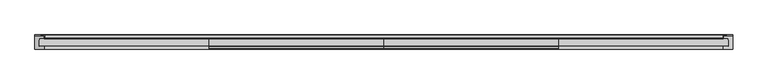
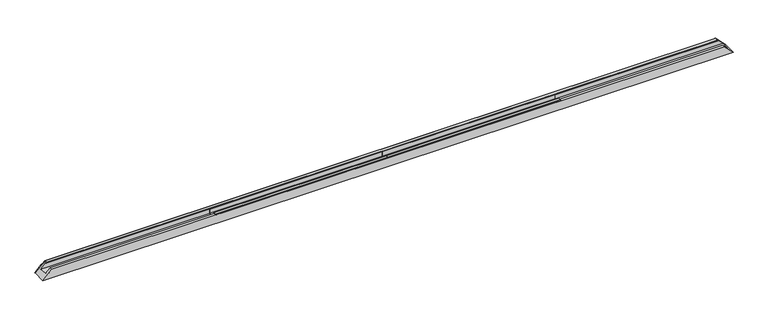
"""IFC4 building model written with IfcOpenShell, lengths in millimetres: proxy geometry, Weiku - Montante - Caixilho duplo 02.2.01.002 : Weiku - Montante - Caixilho duplo 02.2.01.002."""

from ifc_helpers import new_model, si_unit, point, frame, frame_2d, origin, place, context, project, spatial, polyline, circle_curve, ellipse_curve, trimmed, segment, composite_curve, outline, extrude, faceted_brep, source, transform, mapped, element, save
from ifc_brep_helpers import plane_surface, cylinder_surface, revolved_surface, advanced_brep


def generic_models_4a567176(model_context):
    return source(origin(), model_context, "Body", "SolidModel", [
        extrude(outline(composite_curve([segment(polyline([(15.0, 52.0), (0.0, 52.0), (0.0, 55.0)]), True, "CONTINUOUS"), segment(trimmed(circle_curve(frame_2d((1.0, 55.0)), 1.0), [point((0.0, 55.0))], [point((1.0, 56.0))], False, "CARTESIAN"), True, "CONTINUOUS"), segment(polyline([(1.0, 56.0), (16.0, 56.0)]), True, "CONTINUOUS"), segment(trimmed(circle_curve(frame_2d((16.0, 55.0)), 1.0), [point((16.0, 56.0))], [point((17.0, 55.0))], False, "CARTESIAN"), True, "CONTINUOUS"), segment(polyline([(17.0, 55.0), (17.0, 28.908759), (60.0, 26.8749739), (60.0, 52.0), (62.0, 52.0), (62.0, 23.7770256), (15.0, 26.0), (15.0, 52.0)]), True, "CONTINUOUS")], self_intersect=False)), frame((0.0, 0.0, 0.0), z_axis=(1.0, 0.0, 0.0), x_axis=(0.0, 1.0, 0.0)), (0.0, 0.0, 1.0), 997.5),
        extrude(outline(composite_curve([segment(polyline([(15.0, 52.0), (0.0, 52.0), (0.0, 55.0)]), True, "CONTINUOUS"), segment(trimmed(circle_curve(frame_2d((1.0, 55.0)), 1.0), [point((0.0, 55.0))], [point((1.0, 56.0))], False, "CARTESIAN"), True, "CONTINUOUS"), segment(polyline([(1.0, 56.0), (16.0, 56.0)]), True, "CONTINUOUS"), segment(trimmed(circle_curve(frame_2d((16.0, 55.0)), 1.0), [point((16.0, 56.0))], [point((17.0, 55.0))], False, "CARTESIAN"), True, "CONTINUOUS"), segment(polyline([(17.0, 55.0), (17.0, 28.908759), (60.0, 26.8749739), (60.0, 52.0), (62.0, 52.0), (62.0, 23.7770256), (15.0, 26.0), (15.0, 52.0)]), True, "CONTINUOUS")], self_intersect=False)), frame((-997.5, 0.0, 0.0), z_axis=(1.0, 0.0, 0.0), x_axis=(0.0, 1.0, 0.0)), (0.0, 0.0, 1.0), 997.5),
        advanced_brep(
        [(-1943.0, 60.0, 52.0), (-1940.0, 60.0, 55.0), (-1939.0, 61.0, 56.0), (-1939.0, 78.0, 56.0), (-1940.0, 79.0, 55.0), (-1954.0, 79.0, 41.0), (-1957.0, 80.0, 38.0), (-1960.0, 81.0, 35.0), (-1995.0, 81.0, 0.0), (-1995.0, 77.0, 0.0), (-1943.0, 77.0, 52.0), (1943.0, 60.0, 52.0), (1940.0, 60.0, 55.0), (1939.0, 61.0, 56.0), (1939.0, 78.0, 56.0), (1940.0, 79.0, 55.0), (1954.0, 79.0, 41.0), (1957.0, 80.0, 38.0), (1960.0, 81.0, 35.0), (1995.0, 81.0, 0.0), (1995.0, 77.0, 0.0), (1943.0, 77.0, 52.0)],
        [
            (0, 1),
            (1, 2, ellipse_curve(frame((-1940.0, 61.0, 55.0), z_axis=(-0.7071067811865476, 0.0, 0.7071067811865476), x_axis=(-0.7071067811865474, 0.0, -0.7071067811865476)), 1.4142136, 1.0)),
            (2, 3),
            (3, 4, ellipse_curve(frame((-1940.0, 78.0, 55.0), z_axis=(-0.7071067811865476, 0.0, 0.7071067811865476), x_axis=(-0.7071067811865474, 0.0, -0.7071067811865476)), 1.4142136, 1.0)),
            (4, 5),
            (5, 6, ellipse_curve(frame((-1954.0, 84.0, 41.0), z_axis=(0.7071067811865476, 0.0, -0.7071067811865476), x_axis=(0.7071067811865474, 0.0, 0.7071067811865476)), 7.0710678, 5.0)),
            (6, 7, ellipse_curve(frame((-1960.0, 76.0, 35.0), z_axis=(-0.7071067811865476, 0.0, 0.7071067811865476), x_axis=(-0.7071067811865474, 0.0, -0.7071067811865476)), 7.0710678, 5.0)),
            (7, 8),
            (8, 9),
            (9, 10),
            (10, 0),
            (0, 11),
            (11, 12),
            (12, 1),
            (12, 13, ellipse_curve(frame((1940.0, 61.0, 55.0), z_axis=(-0.7071067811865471, 0.0, -0.7071067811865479), x_axis=(-0.7071067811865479, 0.0, 0.7071067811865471)), 1.4142136, 1.0)),
            (13, 2),
            (13, 14),
            (14, 3),
            (14, 15, ellipse_curve(frame((1940.0, 78.0, 55.0), z_axis=(-0.7071067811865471, 0.0, -0.7071067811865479), x_axis=(-0.7071067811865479, 0.0, 0.7071067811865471)), 1.4142136, 1.0)),
            (15, 4),
            (15, 16),
            (16, 5),
            (16, 17, ellipse_curve(frame((1954.0, 84.0, 41.0), z_axis=(0.7071067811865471, 0.0, 0.7071067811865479), x_axis=(0.7071067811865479, 0.0, -0.7071067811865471)), 7.0710678, 5.0)),
            (17, 6),
            (17, 18, ellipse_curve(frame((1960.0, 76.0, 35.0), z_axis=(-0.7071067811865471, 0.0, -0.7071067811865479), x_axis=(-0.7071067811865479, 0.0, 0.7071067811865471)), 7.0710678, 5.0)),
            (18, 7),
            (19, 8),
            (18, 19),
            (19, 20),
            (20, 9),
            (20, 21),
            (21, 10),
            (21, 11),
        ],
        [
            plane_surface(frame((-1995.0, 0.0, 0.0), z_axis=(-0.7071067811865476, 0.0, 0.7071067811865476), x_axis=(0.0, 1.0, 0.0))),
            plane_surface(frame((-1995.0, 60.0, 52.0), z_axis=(0.0, -1.0, 0.0), x_axis=(1.0, 0.0, 0.0))),
            cylinder_surface(frame((-1995.0, 61.0, 55.0), z_axis=(-1.0, 0.0, 0.0), x_axis=(0.0, 1.0, 0.0)), 1.0),
            plane_surface(frame((-1995.0, 61.0, 56.0), z_axis=(0.0, 0.0, 1.0), x_axis=(1.0, 0.0, 0.0))),
            cylinder_surface(frame((-1995.0, 78.0, 55.0), z_axis=(-1.0, 0.0, 0.0), x_axis=(0.0, 1.0, 0.0)), 1.0),
            plane_surface(frame((-1995.0, 79.0, 55.0), z_axis=(0.0, 1.0, 0.0), x_axis=(1.0, 0.0, 0.0))),
            revolved_surface(polyline([(1958.99999999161, 89.0, 41.0), (-1958.99999999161, 89.0, 41.0)]), (-1995.0, 84.0, 41.0), (1.0, 0.0, 0.0)),
            cylinder_surface(frame((-1995.0, 76.0, 35.0), z_axis=(-1.0, 0.0, 0.0), x_axis=(0.0, 1.0, 0.0)), 5.0),
            plane_surface(frame((-1995.0, 81.0, 35.0), z_axis=(0.0, 1.0, 0.0), x_axis=(1.0, 0.0, 0.0))),
            plane_surface(frame((-1995.0, 81.0, 0.0), z_axis=(0.0, 0.0, -1.0), x_axis=(1.0, 0.0, 0.0))),
            plane_surface(frame((-1995.0, 77.0, 0.0), z_axis=(0.0, -1.0, 0.0), x_axis=(1.0, 0.0, 0.0))),
            plane_surface(frame((-1995.0, 77.0, 52.0), z_axis=(0.0, 0.0, -1.0), x_axis=(1.0, 0.0, 0.0))),
            plane_surface(frame((1925.0, 0.0, 70.0), z_axis=(0.7071067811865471, 0.0, 0.7071067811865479), x_axis=(0.0, 1.0, 0.0))),
        ],
        [
            (0, [[1, 2, 3, 4, 5, 6, 7, 8, 9, 10, 11]]),
            (1, [[-1, 12, 13, 14]]),
            (2, [[-2, -14, 15, 16]]),
            (3, [[-3, -16, 17, 18]]),
            (4, [[-4, -18, 19, 20]]),
            (5, [[-5, -20, 21, 22]]),
            (6, [[-6, -22, 23, 24]]),
            (7, [[-7, -24, 25, 26]]),
            (8, [[27, -8, -26, 28]]),
            (9, [[-27, 29, 30, -9]]),
            (10, [[-30, 31, 32, -10]]),
            (11, [[-11, -32, 33, -12]]),
            (12, [[-13, -33, -31, -29, -28, -25, -23, -21, -19, -17, -15]]),
        ],
    ),
        faceted_brep([(-1969.0, 15.0, 26.0), (-1943.0, 15.0, 52.0), (1943.0, 15.0, 52.0), (1969.0, 15.0, 26.0), (-1971.2229744, 62.0, 23.7770256), (1971.2229744, 62.0, 23.7770256), (-1943.0, 62.0, 52.0), (1943.0, 62.0, 52.0), (-1943.0, 77.0, 52.0), (1943.0, 77.0, 52.0), (1995.0, 77.0, 0.0), (-1995.0, 77.0, 0.0), (1995.0, 0.0, 0.0), (-1995.0, 0.0, 0.0), (1943.0, 0.0, 52.0), (-1943.0, 0.0, 52.0)], [[[0, 1, 2, 3]], [[4, 0, 3, 5]], [[6, 4, 5, 7]], [[8, 6, 7, 9]], [[10, 11, 8, 9]], [[11, 10, 12, 13]], [[13, 12, 14, 15]], [[1, 15, 14, 2]], [[1, 0, 4, 6, 8, 11, 13, 15]], [[3, 2, 14, 12, 10, 9, 7, 5]]]),
    ])


if __name__ == "__main__":
    model = new_model("IFC4")
    model_context = context("Model", 3, world=origin())
    ifc_project = project(units=[si_unit("LENGTHUNIT", "METRE", prefix="MILLI")], contexts=[model_context])
    site = spatial("IfcSite", under=ifc_project)
    building = spatial("IfcBuilding", under=site)
    placement = place(None, origin())
    generic_models_shape = generic_models_4a567176(model_context)
    element("IfcBuildingElementProxy", 1, Name="Weiku - Montante - Caixilho duplo 02.2.01.002 : Weiku - Montante - Caixilho duplo 02.2.01.002", ObjectType="Weiku - Montante - Caixilho duplo 02.2.01.002 : Weiku - Montante - Caixilho duplo 02.2.01.002", at=placement, inside=building, context=model_context, shape_type="MappedRepresentation", body=[
        mapped(generic_models_shape, transform((0.0, 0.0, 0.0), x_axis=(1.0, 0.0, 0.0), y_axis=(0.0, 1.0, 0.0), z_axis=(0.0, 0.0, 1.0))),
    ])
    save(model, "model.ifc")
